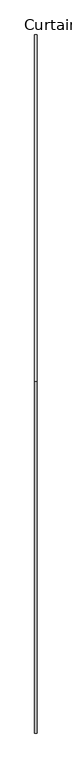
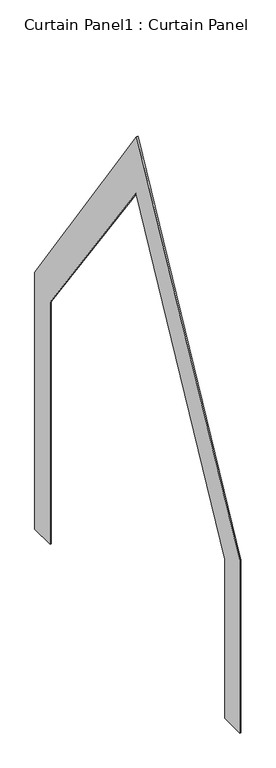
"""IFC4 building model written with IfcOpenShell, lengths in millimetres: plate geometry, Curtain Panel1 : Curtain Panel."""

from ifc_helpers import new_model, si_unit, frame, origin, place, context, project, spatial, polyline, outline, extrude, source, transform, mapped, element, save


def curtain_panel1_curtain_panel_2af1ea26(model_context):
    return source(origin(), model_context, "Body", "SweptSolid", [
        extrude(outline(polyline([(2650.8824873, 300.0), (2139.604502, 300.0), (2139.604502, 5293.9251089), (-778.4625362, 9317.4706722), (-3794.9753259, 3588.4101482), (-3794.9753259, 300.0), (-4294.9753259, 300.0), (-4294.9753259, 3866.1142827), (-802.0464193, 10500.0), (2650.8824873, 5603.4924136), (2650.8824873, 300.0)])), frame((-7607.9571443, 0.0, 0.0), z_axis=(1.0, 0.0, 0.0), x_axis=(0.0, 1.0, 0.0)), (0.0, 0.0, 1.0), 25.0),
    ])


if __name__ == "__main__":
    model = new_model("IFC4")
    model_context = context("Model", 3, world=origin())
    ifc_project = project(units=[si_unit("LENGTHUNIT", "METRE", prefix="MILLI")], contexts=[model_context])
    site = spatial("IfcSite", under=ifc_project)
    building = spatial("IfcBuilding", under=site)
    placement = place(None, origin())
    curtain_panel1_curtain_panel_shape = curtain_panel1_curtain_panel_2af1ea26(model_context)
    element("IfcPlate", 1, ObjectType="Curtain Panel1 : Curtain Panel", at=placement, inside=building, context=model_context, shape_type="MappedRepresentation", body=[
        mapped(curtain_panel1_curtain_panel_shape, transform((0.0, 0.0, 0.0), x_axis=(1.0, 0.0, 0.0), y_axis=(0.0, 1.0, 0.0), z_axis=(0.0, 0.0, 1.0))),
    ])
    save(model, "model.ifc")
